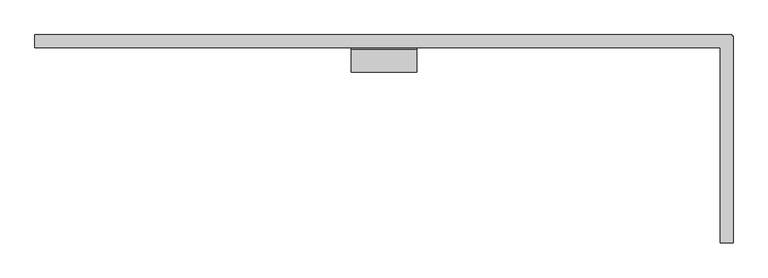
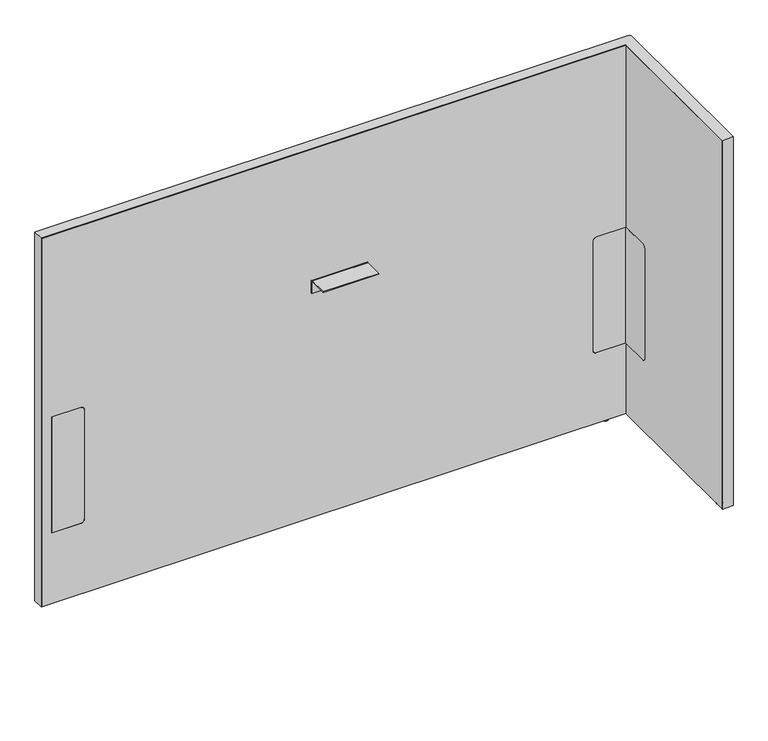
"""IFC4 building model written with IfcOpenShell, lengths in millimetres: furniture geometry, Steelcase - Answer Solution - Boundary Screen - L Return - Single Sided : 42H x 63W."""

from ifc_helpers import new_model, si_unit, point, frame, frame_2d, origin, place, context, project, spatial, polyline, circle_curve, ellipse_curve, trimmed, segment, composite_curve, outline, extrude, faceted_brep, source, transform, mapped, element, save
from ifc_brep_helpers import plane_surface, cylinder_surface, revolved_surface, advanced_brep


def furniture_9bd9cfb8(model_context):
    return source(origin(), model_context, "Body", "SolidModel", [
        extrude(outline(composite_curve([segment(polyline([(-109.3501471, 549.6162029), (-29.0550397, 549.6162029), (-29.0550397, 213.7762137), (-109.3501471, 213.7762137)]), True, "CONTINUOUS"), segment(trimmed(circle_curve(frame_2d((-109.3501471, 223.9362137)), 10.16), [point((-109.3501471, 213.7762137))], [point((-119.5101471, 223.9362137))], False, "CARTESIAN"), True, "CONTINUOUS"), segment(polyline([(-119.5101471, 223.9362137), (-119.5101471, 539.4562029)]), True, "CONTINUOUS"), segment(trimmed(circle_curve(frame_2d((-109.3501471, 539.4562029)), 10.16), [point((-119.5101471, 539.4562029))], [point((-109.3501471, 549.6162029))], False, "CARTESIAN"), True, "CONTINUOUS")], self_intersect=False)), frame((1830.0191891, 0.0, 0.0), z_axis=(1.0, 0.0, 0.0), x_axis=(0.0, 1.0, 0.0)), (0.0, 0.0, 1.0), 0.6401544),
        advanced_brep(
        [(1844.8672074, -448.0136072, 0.0), (1851.8216144, -448.0136072, 0.0), (1837.9128003, -448.0136072, 0.0), (1853.2762685, -448.0136072, 1.2700001), (1836.4581463, -448.0136072, 1.2700001), (1853.2762685, -448.0136072, 2.9673238), (1836.4581463, -448.0136072, 2.9673238), (1854.2427877, -448.0136072, 2.9673238), (1835.491627, -448.0136072, 2.9673238), (1854.2427877, -448.0136072, 9.9059849), (1835.491627, -448.0136072, 9.9059849), (1844.8672074, -448.0136072, 9.9059849)],
        [
            (0, 1),
            (1, 2, circle_curve(frame((1844.8672074, -448.0136072, 0.0), z_axis=(0.0, 0.0, -1.0), x_axis=(1.0, 0.0, 0.0)), 6.9544071)),
            (2, 0),
            (2, 1, circle_curve(frame((1844.8672074, -448.0136072, 0.0), z_axis=(0.0, 0.0, -1.0), x_axis=(1.0, 0.0, 0.0)), 6.9544071)),
            (1, 3, circle_curve(frame((1851.9945484, -448.0136072, 1.2700001), z_axis=(0.0, -1.0, 0.0), x_axis=(0.0, 0.0, 1.0)), 1.2817201)),
            (3, 4, circle_curve(frame((1844.8672074, -448.0136072, 1.2700001), z_axis=(0.0, 0.0, -1.0), x_axis=(1.0, 0.0, 0.0)), 8.4090611)),
            (4, 2, circle_curve(frame((1837.7398663, -448.0136072, 1.2700001), z_axis=(0.0, -1.0, 0.0), x_axis=(0.0, 0.0, 1.0)), 1.2817201)),
            (4, 3, circle_curve(frame((1844.8672074, -448.0136072, 1.2700001), z_axis=(0.0, 0.0, -1.0), x_axis=(1.0, 0.0, 0.0)), 8.4090611)),
            (3, 5),
            (5, 6, circle_curve(frame((1844.8672074, -448.0136072, 2.9673238), z_axis=(0.0, 0.0, -1.0), x_axis=(1.0, 0.0, 0.0)), 8.4090611)),
            (6, 4),
            (6, 5, circle_curve(frame((1844.8672074, -448.0136072, 2.9673238), z_axis=(0.0, 0.0, -1.0), x_axis=(1.0, 0.0, 0.0)), 8.4090611)),
            (5, 7),
            (7, 8, circle_curve(frame((1844.8672074, -448.0136072, 2.9673238), z_axis=(0.0, 0.0, -1.0), x_axis=(1.0, 0.0, 0.0)), 9.3755804)),
            (8, 6),
            (8, 7, circle_curve(frame((1844.8672074, -448.0136072, 2.9673238), z_axis=(0.0, 0.0, -1.0), x_axis=(1.0, 0.0, 0.0)), 9.3755804)),
            (7, 9),
            (9, 10, circle_curve(frame((1844.8672074, -448.0136072, 9.9059849), z_axis=(0.0, 0.0, -1.0), x_axis=(1.0, 0.0, 0.0)), 9.3755804)),
            (10, 8),
            (10, 9, circle_curve(frame((1844.8672074, -448.0136072, 9.9059849), z_axis=(0.0, 0.0, -1.0), x_axis=(1.0, 0.0, 0.0)), 9.3755804)),
            (9, 11),
            (11, 10),
        ],
        [
            plane_surface(frame((1844.8672074, -448.0136072, 0.0), z_axis=(0.0, 0.0, -1.0), x_axis=(1.0, 0.0, 0.0))),
            revolved_surface(trimmed(ellipse_curve(frame((1851.9945484, -448.0136072, 1.2700001), z_axis=(0.0, 1.0, 0.0), x_axis=(0.0, 0.0, 1.0)), 1.2817201, 1.2817201), [point((1853.2762685, -448.0136072, 1.2700001))], [point((1851.8216144, -448.0136072, 0.0))], True, "CARTESIAN"), (1844.8672074, -448.0136072, 9.9059849), (0.0, 0.0, -1.0)),
            cylinder_surface(frame((1844.8672074, -448.0136072, 9.9059849), z_axis=(0.0, 0.0, -1.0), x_axis=(1.0, 0.0, 0.0)), 8.4090611),
            plane_surface(frame((1844.8672074, -448.0136072, 2.9673238), z_axis=(0.0, 0.0, -1.0), x_axis=(1.0, 0.0, 0.0))),
            cylinder_surface(frame((1844.8672074, -448.0136072, 9.9059849), z_axis=(0.0, 0.0, -1.0), x_axis=(1.0, 0.0, 0.0)), 9.3755804),
            plane_surface(frame((1844.8672074, -448.0136072, 9.9059849), z_axis=(0.0, 0.0, 1.0), x_axis=(1.0, 0.0, 0.0))),
        ],
        [
            (0, [[1, 2, 3]]),
            (0, [[-3, 4, -1]]),
            (1, [[-2, 5, 6, 7]]),
            (1, [[-4, -7, 8, -5]]),
            (2, [[-6, 9, 10, 11]]),
            (2, [[-8, -11, 12, -9]]),
            (3, [[-10, 13, 14, 15]]),
            (3, [[-12, -15, 16, -13]]),
            (4, [[-14, 17, 18, 19]]),
            (4, [[-16, -19, 20, -17]]),
            (5, [[-18, 21, 22]]),
            (5, [[-20, -22, -21]]),
        ],
    ),
        faceted_brep([(1856.4531179, 0.0, 1077.722), (1856.4531179, 0.0, 9.9059849), (1855.4621491, 0.0, 9.9059849), (1855.4621491, 0.0, 1076.742118), (230.8097779, 0.0, 1076.742118), (230.8097779, 0.0, 9.9059849), (229.8191891, 0.0, 9.9059849), (229.8191891, 0.0, 1077.722), (229.8191891, -29.6898332, 1077.722), (229.8191891, -29.6898332, 9.9059849), (230.8097779, -29.6898332, 9.9059849), (230.8097779, -29.6898332, 1076.742118), (1830.0191891, -29.6898332, 1076.742118), (1830.0191891, -29.6898332, 1077.722), (1855.4621491, -29.6898332, 1076.742118), (1855.4621491, -29.6898332, 9.9059849), (1856.4531179, -29.6898332, 9.9059849), (1856.4531179, -29.6898332, 1076.742118), (1856.4531179, -3.2625916, 1077.722), (1856.4531179, -3.2625916, 9.9059849), (1856.4531179, -4.252647, 9.9059849), (1856.4531179, -4.252647, 1076.742118), (1859.7152256, -3.2625916, 9.9059849), (1859.7152256, -4.252647, 9.9059849), (1855.4621491, -4.252647, 9.9059849), (1830.0191891, -4.252647, 9.9059849), (1830.0191891, -3.2625916, 9.9059849), (1855.4621491, -3.2625916, 9.9059849), (1830.0191891, -486.8898332, 1077.722), (1859.7152256, -486.8898332, 1077.722), (1859.7152256, -3.2625916, 1077.722), (1855.4621491, -3.2625916, 1076.742118), (1855.4621491, -4.252647, 1076.742118), (1830.0191891, -3.2625916, 1076.742118), (1830.0191891, -4.252647, 1076.742118), (1859.7152256, -4.252647, 1076.742118), (1859.7152256, -485.899196, 1076.742118), (1830.0191891, -485.899196, 1076.742118), (1830.0191891, -485.899196, 9.9059849), (1830.0191891, -486.8898332, 9.9059849), (1859.7152256, -486.8898332, 9.9059849), (1859.7152256, -485.899196, 9.9059849)], [[[0, 1, 2, 3, 4, 5, 6, 7]], [[8, 9, 10, 11, 12, 13]], [[14, 15, 16, 17]], [[1, 0, 18, 19]], [[17, 16, 20, 21]], [[2, 1, 19, 22, 23, 20, 16, 15, 24, 25, 26, 27]], [[7, 6, 9, 8]], [[0, 7, 8, 13, 28, 29, 30, 18]], [[3, 2, 27, 31]], [[15, 14, 32, 24]], [[4, 3, 31, 33, 34, 32, 14, 17, 21, 35, 36, 37, 12, 11]], [[5, 4, 11, 10]], [[6, 5, 10, 9]], [[26, 25, 34, 33]], [[37, 38, 39, 28, 13, 12]], [[29, 40, 41, 36, 35, 23, 22, 30]], [[27, 26, 33, 31]], [[30, 22, 19, 18]], [[34, 25, 24, 32]], [[23, 35, 21, 20]], [[38, 37, 36, 41]], [[39, 38, 41, 40]], [[28, 39, 40, 29]]]),
        extrude(outline(composite_curve([segment(polyline([(-86.8398151, 696.4680019), (-86.8398151, 698.5), (-34.9450855, 698.5)]), True, "CONTINUOUS"), segment(trimmed(circle_curve(frame_2d((-34.9450855, 693.2447477)), 5.2552523), [point((-34.9450855, 698.5))], [point((-29.6898332, 693.2447477))], False, "CARTESIAN"), True, "CONTINUOUS"), segment(polyline([(-29.6898332, 693.2447477), (-29.6898332, 660.4), (-31.7218162, 660.4), (-31.7218162, 693.0058743)]), True, "CONTINUOUS"), segment(trimmed(circle_curve(frame_2d((-35.1839438, 693.0058743)), 3.4621276), [point((-31.7218162, 693.0058743))], [point((-35.1839438, 696.4680019))], True, "CARTESIAN"), True, "CONTINUOUS"), segment(polyline([(-35.1839438, 696.4680019), (-86.8398151, 696.4680019)]), True, "CONTINUOUS")], self_intersect=False)), frame((968.5685899, 0.0, 0.0), z_axis=(1.0, 0.0, 0.0), x_axis=(0.0, 1.0, 0.0)), (0.0, 0.0, 1.0), 152.4000969),
        advanced_brep(
        [(1782.5246853, -23.7588726, 9.9059849), (1782.5246853, -5.9309607, 9.9059849), (1782.5246853, -14.8449166, 9.9059849), (1782.5246853, -23.7588726, 2.9673238), (1782.5246853, -5.9309607, 2.9673238), (1782.5246853, -22.7915354, 2.9673238), (1782.5246853, -6.8982978, 2.9673238), (1782.5246853, -22.7915354, 1.6569081), (1782.5246853, -6.8982978, 1.6569081), (1782.5246853, -21.1346274, 0.0), (1782.5246853, -8.5552059, 0.0), (1782.5246853, -14.8449166, 0.0)],
        [
            (0, 1, circle_curve(frame((1782.5246853, -14.8449166, 9.9059849), z_axis=(0.0, 0.0, 1.0), x_axis=(0.0, 1.0, 0.0)), 8.913956)),
            (1, 2),
            (2, 0),
            (1, 0, circle_curve(frame((1782.5246853, -14.8449166, 9.9059849), z_axis=(0.0, 0.0, 1.0), x_axis=(0.0, 1.0, 0.0)), 8.913956)),
            (3, 4, circle_curve(frame((1782.5246853, -14.8449166, 2.9673238), z_axis=(0.0, 0.0, 1.0), x_axis=(0.0, 1.0, 0.0)), 8.913956)),
            (4, 1),
            (0, 3),
            (4, 3, circle_curve(frame((1782.5246853, -14.8449166, 2.9673238), z_axis=(0.0, 0.0, 1.0), x_axis=(0.0, 1.0, 0.0)), 8.913956)),
            (5, 6, circle_curve(frame((1782.5246853, -14.8449166, 2.9673238), z_axis=(0.0, 0.0, 1.0), x_axis=(0.0, 1.0, 0.0)), 7.9466188)),
            (6, 4),
            (3, 5),
            (6, 5, circle_curve(frame((1782.5246853, -14.8449166, 2.9673238), z_axis=(0.0, 0.0, 1.0), x_axis=(0.0, 1.0, 0.0)), 7.9466188)),
            (7, 8, circle_curve(frame((1782.5246853, -14.8449166, 1.6569081), z_axis=(0.0, 0.0, 1.0), x_axis=(0.0, 1.0, 0.0)), 7.9466188)),
            (8, 6),
            (5, 7),
            (8, 7, circle_curve(frame((1782.5246853, -14.8449166, 1.6569081), z_axis=(0.0, 0.0, 1.0), x_axis=(0.0, 1.0, 0.0)), 7.9466188)),
            (9, 10, circle_curve(frame((1782.5246853, -14.8449166, 0.0), z_axis=(0.0, 0.0, 1.0), x_axis=(0.0, 1.0, 0.0)), 6.2897107)),
            (10, 8, circle_curve(frame((1782.5246853, -8.5552059, 1.6569081), z_axis=(1.0, 0.0, 0.0), x_axis=(0.0, 1.0, 0.0)), 1.6569081)),
            (7, 9, circle_curve(frame((1782.5246853, -21.1346274, 1.6569081), z_axis=(1.0, 0.0, 0.0), x_axis=(0.0, -1.0, 0.0)), 1.6569081)),
            (10, 9, circle_curve(frame((1782.5246853, -14.8449166, 0.0), z_axis=(0.0, 0.0, 1.0), x_axis=(0.0, 1.0, 0.0)), 6.2897107)),
            (11, 10),
            (9, 11),
        ],
        [
            plane_surface(frame((1782.5246853, -14.8449166, 9.9059849), z_axis=(0.0, 0.0, 1.0), x_axis=(0.0, 1.0, 0.0))),
            cylinder_surface(frame((1782.5246853, -14.8449166, 9.9059849), z_axis=(0.0, 0.0, -1.0), x_axis=(0.0, 1.0, 0.0)), 8.913956),
            plane_surface(frame((1782.5246853, -14.8449166, 2.9673238), z_axis=(0.0, 0.0, -1.0), x_axis=(0.0, 1.0, 0.0))),
            cylinder_surface(frame((1782.5246853, -14.8449166, 9.9059849), z_axis=(0.0, 0.0, -1.0), x_axis=(0.0, 1.0, 0.0)), 7.9466188),
            revolved_surface(trimmed(ellipse_curve(frame((1782.5246853, -8.5552059, 1.6569081), z_axis=(-1.0, 0.0, 0.0), x_axis=(0.0, 1.0, 0.0)), 1.6569081, 1.6569081), [point((1782.5246853, -6.8982978, 1.6569081))], [point((1782.5246853, -8.5552059, 0.0))], True, "CARTESIAN"), (1782.5246853, -14.8449166, 9.9059849), (0.0, 0.0, -1.0)),
            plane_surface(frame((1782.5246853, -14.8449166, 0.0), z_axis=(0.0, 0.0, -1.0), x_axis=(0.0, 1.0, 0.0))),
        ],
        [
            (0, [[1, 2, 3]]),
            (0, [[4, -3, -2]]),
            (1, [[5, 6, -1, 7]]),
            (1, [[8, -7, -4, -6]]),
            (2, [[9, 10, -5, 11]]),
            (2, [[12, -11, -8, -10]]),
            (3, [[13, 14, -9, 15]]),
            (3, [[16, -15, -12, -14]]),
            (4, [[17, 18, -13, 19]]),
            (4, [[20, -19, -16, -18]]),
            (5, [[21, -17, 22]]),
            (5, [[-22, -20, -21]]),
        ],
    ),
        advanced_brep(
        [(230.8097779, 0.0, 1076.742118), (1855.4621491, 0.0, 1076.742118), (1855.4621491, 0.0, 9.9059849), (230.8097779, 0.0, 9.9059849), (347.9483813, -29.0550397, 539.4562029), (337.7883813, -29.0550397, 549.6162029), (258.1344836, -29.0550397, 549.6162029), (258.1344836, -29.0550397, 213.7762137), (337.7883813, -29.0550397, 213.7762137), (347.9483813, -29.0550397, 223.9362137), (1830.6593435, -29.0550397, 213.7762137), (1830.6593435, -29.0550397, 549.6162029), (1750.1109268, -29.0550397, 549.6162029), (1739.9509268, -29.0550397, 539.4562029), (1739.9509268, -29.0550397, 223.9362137), (1750.1109268, -29.0550397, 213.7762137), (230.8097779, -29.6898332, 1076.742118), (230.8097779, -29.6898332, 9.9059849), (1830.0191891, -29.6898332, 9.9059849), (1830.0191891, -29.6898332, 213.7762137), (1750.1109268, -29.6898332, 213.7762137), (1739.9509268, -29.6898332, 223.9362137), (1739.9509268, -29.6898332, 539.4562029), (1750.1109268, -29.6898332, 549.6162029), (1830.0191891, -29.6898332, 549.6162029), (1830.0191891, -29.6898332, 1076.742118), (337.7883813, -29.6898332, 549.6162029), (347.9483813, -29.6898332, 539.4562029), (347.9483813, -29.6898332, 223.9362137), (337.7883813, -29.6898332, 213.7762137), (258.1344836, -29.6898332, 213.7762137), (258.1344836, -29.6898332, 549.6162029), (1855.4621491, -4.252647, 9.9059849), (1859.7152256, -4.252647, 9.9059849), (1859.7152256, -485.899196, 9.9059849), (1830.0191891, -485.899196, 9.9059849), (1855.4621491, -4.252647, 1076.742118), (1830.0191891, -485.899196, 1076.742118), (1859.7152256, -485.899196, 1076.742118), (1859.7152256, -4.252647, 1076.742118), (1830.6593435, -109.3501471, 549.6162029), (1830.0191891, -109.3501471, 549.6162029), (1830.6593435, -109.3501471, 213.7762137), (1830.6593435, -119.5101471, 223.9362137), (1830.6593435, -119.5101471, 539.4562029), (1830.0191891, -109.3501471, 213.7762137), (1830.0191891, -119.5101471, 539.4562029), (1830.0191891, -119.5101471, 223.9362137)],
        [
            (0, 1),
            (1, 2),
            (2, 3),
            (3, 0),
            (4, 5, circle_curve(frame((337.7883813, -29.0550397, 539.4562029), z_axis=(0.0, -1.0, 0.0), x_axis=(0.0, 0.0, 1.0)), 10.16)),
            (5, 6),
            (6, 7),
            (7, 8),
            (8, 9, circle_curve(frame((337.7883813, -29.0550397, 223.9362137), z_axis=(0.0, -1.0, 0.0), x_axis=(0.0, 0.0, 1.0)), 10.16)),
            (9, 4),
            (10, 11),
            (11, 12),
            (12, 13, circle_curve(frame((1750.1109268, -29.0550397, 539.4562029), z_axis=(0.0, -1.0, 0.0), x_axis=(0.0, 0.0, 1.0)), 10.16)),
            (13, 14),
            (14, 15, circle_curve(frame((1750.1109268, -29.0550397, 223.9362137), z_axis=(0.0, -1.0, 0.0), x_axis=(0.0, 0.0, 1.0)), 10.16)),
            (15, 10),
            (16, 17),
            (17, 18),
            (18, 19),
            (19, 20),
            (20, 21, circle_curve(frame((1750.1109268, -29.6898332, 223.9362137), z_axis=(0.0, 1.0, 0.0), x_axis=(0.0, 0.0, 1.0)), 10.16)),
            (21, 22),
            (22, 23, circle_curve(frame((1750.1109268, -29.6898332, 539.4562029), z_axis=(0.0, 1.0, 0.0), x_axis=(0.0, 0.0, 1.0)), 10.16)),
            (23, 24),
            (24, 25),
            (25, 16),
            (26, 27, circle_curve(frame((337.7883813, -29.6898332, 539.4562029), z_axis=(0.0, 1.0, 0.0), x_axis=(0.0, 0.0, 1.0)), 10.16)),
            (27, 28),
            (28, 29, circle_curve(frame((337.7883813, -29.6898332, 223.9362137), z_axis=(0.0, 1.0, 0.0), x_axis=(0.0, 0.0, 1.0)), 10.16)),
            (29, 30),
            (30, 31),
            (31, 26),
            (16, 0),
            (3, 17),
            (2, 32),
            (32, 33),
            (33, 34),
            (34, 35),
            (35, 18),
            (1, 36),
            (36, 32),
            (25, 37),
            (37, 38),
            (38, 39),
            (39, 36),
            (26, 5),
            (4, 27),
            (9, 28),
            (8, 29),
            (7, 30),
            (6, 31),
            (11, 40),
            (40, 41),
            (41, 24),
            (23, 12),
            (42, 43, circle_curve(frame((1830.6593435, -109.3501471, 223.9362137), z_axis=(-1.0, 0.0, 0.0), x_axis=(0.0, 1.0, 0.0)), 10.16)),
            (43, 44),
            (44, 40, circle_curve(frame((1830.6593435, -109.3501471, 539.4562029), z_axis=(-1.0, 0.0, 0.0), x_axis=(0.0, 1.0, 0.0)), 10.16)),
            (10, 42),
            (15, 20),
            (19, 45),
            (45, 42),
            (14, 21),
            (13, 22),
            (35, 37),
            (41, 46, circle_curve(frame((1830.0191891, -109.3501471, 539.4562029), z_axis=(1.0, 0.0, 0.0), x_axis=(0.0, 1.0, 0.0)), 10.16)),
            (46, 47),
            (47, 45, circle_curve(frame((1830.0191891, -109.3501471, 223.9362137), z_axis=(1.0, 0.0, 0.0), x_axis=(0.0, 1.0, 0.0)), 10.16)),
            (38, 34),
            (33, 39),
            (44, 46),
            (43, 47),
        ],
        [
            plane_surface(frame((347.9483813, 0.0, 549.6162029), z_axis=(0.0, 1.0, 0.0), x_axis=(0.0, 0.0, -1.0))),
            plane_surface(frame((347.9483813, -29.0550397, 549.6162029), z_axis=(0.0, -1.0, 0.0), x_axis=(0.0, 0.0, 1.0))),
            plane_surface(frame((1855.4621491, -29.6898332, 1076.742118), z_axis=(0.0, -1.0, 0.0), x_axis=(-1.0, 0.0, 0.0))),
            plane_surface(frame((230.8097779, 0.0, 9.9059849), z_axis=(-1.0, 0.0, 0.0), x_axis=(0.0, -1.0, 0.0))),
            plane_surface(frame((1855.4621491, 0.0, 9.9059849), z_axis=(0.0, 0.0, -1.0), x_axis=(0.0, -1.0, 0.0))),
            plane_surface(frame((1855.4621491, 0.0, 1076.742118), z_axis=(1.0, 0.0, 0.0), x_axis=(0.0, -1.0, 0.0))),
            plane_surface(frame((230.8097779, 0.0, 1076.742118), z_axis=(0.0, 0.0, 1.0), x_axis=(0.0, -1.0, 0.0))),
            revolved_surface(polyline([(337.7883813, -29.6898332, 549.6162029), (337.7883813, -29.0550397, 549.6162029)]), (337.7883813, -29.6898332, 539.4562029), (0.0, -1.0, 0.0)),
            plane_surface(frame((347.9483813, 0.0, 223.9362137), z_axis=(-1.0, 0.0, 0.0), x_axis=(0.0, -1.0, 0.0))),
            revolved_surface(polyline([(337.7883813, -29.6898332, 234.0962137), (337.7883813, -29.0550397, 234.0962137)]), (337.7883813, -29.6898332, 223.9362137), (0.0, -1.0, 0.0)),
            plane_surface(frame((258.1344836, 0.0, 213.7762137), z_axis=(0.0, 0.0, 1.0), x_axis=(0.0, -1.0, 0.0))),
            plane_surface(frame((258.1344836, 0.0, 549.6162029), z_axis=(1.0, 0.0, 0.0), x_axis=(0.0, -1.0, 0.0))),
            plane_surface(frame((337.7883813, 0.0, 549.6162029), z_axis=(0.0, 0.0, -1.0), x_axis=(0.0, -1.0, 0.0))),
            plane_surface(frame((1830.6593435, 0.0, 549.6162029), z_axis=(0.0, 0.0, -1.0), x_axis=(0.0, -1.0, 0.0))),
            plane_surface(frame((1830.6593435, 0.0, 213.7762137), z_axis=(-1.0, 0.0, 0.0), x_axis=(0.0, -1.0, 0.0))),
            plane_surface(frame((1750.1109268, 0.0, 213.7762137), z_axis=(0.0, 0.0, 1.0), x_axis=(0.0, -1.0, 0.0))),
            revolved_surface(polyline([(1750.1109268, -29.6898332, 234.0962137), (1750.1109268, -29.0550397, 234.0962137)]), (1750.1109268, -29.6898332, 223.9362137), (0.0, -1.0, 0.0)),
            plane_surface(frame((1739.9509268, 0.0, 539.4562029), z_axis=(1.0, 0.0, 0.0), x_axis=(0.0, -1.0, 0.0))),
            revolved_surface(polyline([(1750.1109268, -29.6898332, 549.6162029), (1750.1109268, -29.0550397, 549.6162029)]), (1750.1109268, -29.6898332, 539.4562029), (0.0, -1.0, 0.0)),
            plane_surface(frame((1830.0191891, -485.899196, 1076.742118), z_axis=(-1.0, 0.0, 0.0), x_axis=(0.0, 0.0, 1.0))),
            plane_surface(frame((1859.7152256, -485.899196, 1076.742118), z_axis=(1.0, 0.0, 0.0), x_axis=(0.0, 0.0, -1.0))),
            plane_surface(frame((1859.7152256, -4.252647, 9.9059849), z_axis=(0.0, 1.0, 0.0), x_axis=(-1.0, 0.0, 0.0))),
            plane_surface(frame((1859.7152256, -485.899196, 1076.742118), z_axis=(0.0, -1.0, 0.0), x_axis=(-1.0, 0.0, 0.0))),
            revolved_surface(polyline([(1830.0191890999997, -99.1901471, 539.4562029), (1830.6593434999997, -99.1901471, 539.4562029)]), (-340.6902705, -109.3501471, 539.4562029), (-1.0, 0.0, 0.0)),
            plane_surface(frame((1859.7152256, -119.5101471, 223.9362137), z_axis=(0.0, 1.0, 0.0), x_axis=(-1.0, 0.0, 0.0))),
            revolved_surface(polyline([(1830.0191890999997, -99.1901471, 223.9362137), (1830.6593434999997, -99.1901471, 223.9362137)]), (-340.6902705, -109.3501471, 223.9362137), (-1.0, 0.0, 0.0)),
        ],
        [
            (0, [[1, 2, 3, 4]]),
            (1, [[5, 6, 7, 8, 9, 10]]),
            (1, [[11, 12, 13, 14, 15, 16]]),
            (2, [[17, 18, 19, 20, 21, 22, 23, 24, 25, 26], [27, 28, 29, 30, 31, 32]]),
            (3, [[-17, 33, -4, 34]]),
            (4, [[-3, 35, 36, 37, 38, 39, -18, -34]]),
            (5, [[-2, 40, 41, -35]]),
            (6, [[-1, -33, -26, 42, 43, 44, 45, -40]]),
            (7, [[-27, 46, -5, 47]]),
            (8, [[-28, -47, -10, 48]]),
            (9, [[-29, -48, -9, 49]]),
            (10, [[-30, -49, -8, 50]]),
            (11, [[-31, -50, -7, 51]]),
            (12, [[-32, -51, -6, -46]]),
            (13, [[52, 53, 54, -24, 55, -12]]),
            (14, [[56, 57, 58, -52, -11, 59]]),
            (15, [[-59, -16, 60, -20, 61, 62]]),
            (16, [[-21, -60, -15, 63]]),
            (17, [[-22, -63, -14, 64]]),
            (18, [[-23, -64, -13, -55]]),
            (19, [[65, -42, -25, -54, 66, 67, 68, -61, -19, -39]]),
            (20, [[69, -37, 70, -44]]),
            (21, [[-70, -36, -41, -45]]),
            (22, [[-65, -38, -69, -43]]),
            (23, [[-66, -53, -58, 71]]),
            (24, [[-67, -71, -57, 72]]),
            (25, [[-68, -72, -56, -62]]),
        ],
    ),
        extrude(outline(composite_curve([segment(polyline([(549.6162029, 337.7883813), (549.6162029, 258.1344836), (213.7762137, 258.1344836), (213.7762137, 337.7883813)]), True, "CONTINUOUS"), segment(trimmed(circle_curve(frame_2d((223.9362137, 337.7883813)), 10.16), [point((213.7762137, 337.7883813))], [point((223.9362137, 347.9483813))], False, "CARTESIAN"), True, "CONTINUOUS"), segment(polyline([(223.9362137, 347.9483813), (539.4562029, 347.9483813)]), True, "CONTINUOUS"), segment(trimmed(circle_curve(frame_2d((539.4562029, 337.7883813)), 10.16), [point((539.4562029, 347.9483813))], [point((549.6162029, 337.7883813))], False, "CARTESIAN"), True, "CONTINUOUS")], self_intersect=False)), frame((0.0, -29.6898332, 0.0), z_axis=(0.0, 1.0, 0.0), x_axis=(0.0, 0.0, 1.0)), (0.0, 0.0, 1.0), 0.6347935),
        extrude(outline(composite_curve([segment(trimmed(circle_curve(frame_2d((539.4562029, 1750.1109268)), 10.16), [point((549.6162029, 1750.1109268))], [point((539.4562029, 1739.9509268))], False, "CARTESIAN"), True, "CONTINUOUS"), segment(polyline([(539.4562029, 1739.9509268), (223.9362137, 1739.9509268)]), True, "CONTINUOUS"), segment(trimmed(circle_curve(frame_2d((223.9362137, 1750.1109268)), 10.16), [point((223.9362137, 1739.9509268))], [point((213.7762137, 1750.1109268))], False, "CARTESIAN"), True, "CONTINUOUS"), segment(polyline([(213.7762137, 1750.1109268), (213.7762137, 1830.0191891), (549.6162029, 1830.0191891), (549.6162029, 1750.1109268)]), True, "CONTINUOUS")], self_intersect=False)), frame((0.0, -29.6898332, 0.0), z_axis=(0.0, 1.0, 0.0), x_axis=(0.0, 0.0, 1.0)), (0.0, 0.0, 1.0), 0.6347935),
    ])


if __name__ == "__main__":
    model = new_model("IFC4")
    model_context = context("Model", 3, world=origin())
    ifc_project = project(units=[si_unit("LENGTHUNIT", "METRE", prefix="MILLI")], contexts=[model_context])
    site = spatial("IfcSite", under=ifc_project)
    building = spatial("IfcBuilding", under=site)
    placement = place(None, origin())
    furniture_shape = furniture_9bd9cfb8(model_context)
    element("IfcFurniture", 1, ObjectType="Steelcase - Answer Solution - Boundary Screen - L Return - Single Sided : 42H x 63W", at=placement, inside=building, context=model_context, shape_type="MappedRepresentation", body=[
        mapped(furniture_shape, transform((0.0, 0.0, 0.0), x_axis=(1.0, 0.0, 0.0), y_axis=(0.0, 1.0, 0.0), z_axis=(0.0, 0.0, 1.0))),
    ])
    save(model, "model.ifc")
